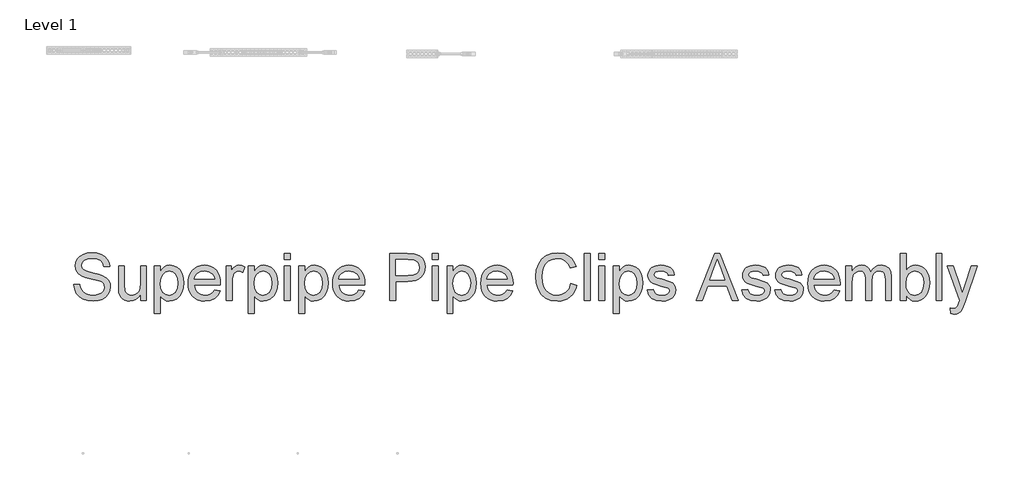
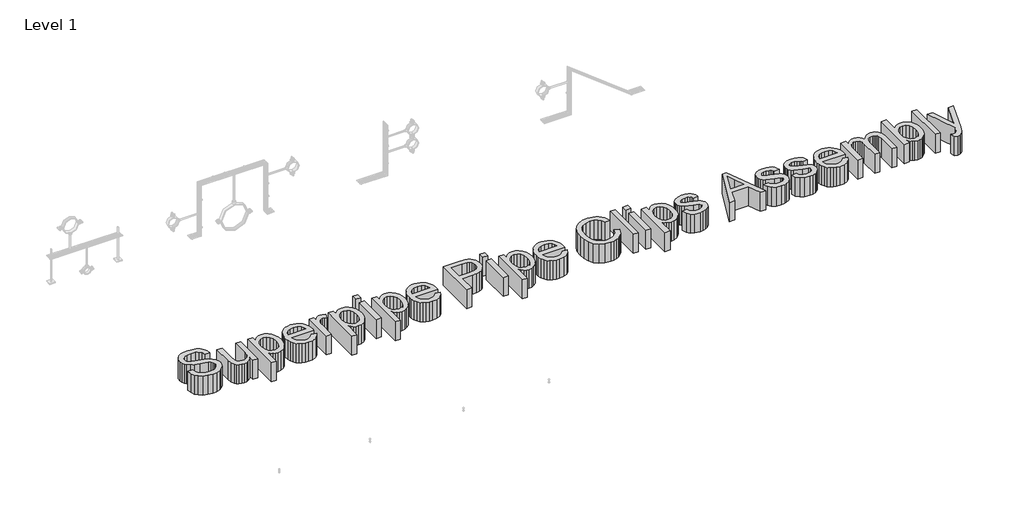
# One storey, part 27 of 32: 1 proxy.
"""IFC4 building model written with IfcOpenShell, lengths in millimetres."""

from ifc_helpers import new_model, si_unit, origin, origin_with_axes, place, context, project, spatial, polyline, outline, extrude, element, save

model = new_model("IFC4")

# Units and contexts
model_context = context("Model", 3, world=origin())
ifc_project = project(units=[si_unit("LENGTHUNIT", "METRE", prefix="MILLI")], contexts=[model_context])

# Site, building, storey
site = spatial("IfcSite", under=ifc_project)
building = spatial("IfcBuilding", under=site)
storey = spatial("IfcBuildingStorey", under=building, Name="Level 1", Elevation=0.0)

# Proxy
placement = place(None, origin())
element("IfcBuildingElementProxy", 1, Name="300mm Arial 2", ObjectType="300mm Arial 2", at=placement, inside=storey, context=model_context, shape_type="SweptSolid", body=[
    extrude(outline(polyline([(-22411.9190005, 19309.0330289), (-22374.2478842, 19309.0330289), (-22369.9252708, 19288.1281345), (-22362.1077784, 19271.3251244), (-22349.9124903, 19257.989402), (-22332.4564896, 19247.4863711), (-22311.1193339, 19240.6713571), (-22287.2805806, 19238.3996858), (-22266.2929128, 19240.1195341), (-22247.9172071, 19245.2790791), (-22233.0271833, 19253.4460594), (-22222.4965612, 19264.1882137), (-22216.2333703, 19276.5214575), (-22214.1456399, 19289.4617067), (-22215.7091384, 19302.0708621), (-22220.3996339, 19312.9693662), (-22229.9277775, 19322.2675836), (-22246.0042207, 19330.075879), (-22300.8554262, 19344.460065), (-22336.8618765, 19353.9790116), (-22359.9004864, 19363.0381058), (-22378.6532711, 19375.7116405), (-22391.9430082, 19391.0707138), (-22399.8616682, 19408.7842319), (-22402.5012215, 19428.5211009), (-22399.2362688, 19450.5848236), (-22389.4414106, 19471.1586241), (-22373.3741645, 19488.5962307), (-22351.2920477, 19501.2513714), (-22324.78615, 19508.9493021), (-22295.4475609, 19511.515279), (-22263.6625565, 19508.8297405), (-22235.8506777, 19500.7731248), (-22213.0052058, 19487.5109788), (-22196.1194222, 19469.2088496), (-22185.4324502, 19447.0071712), (-22181.1834132, 19422.0463778), (-22218.8545295, 19422.0463778), (-22225.770711, 19444.5239677), (-22240.1916852, 19460.7475637), (-22262.7244574, 19470.570013), (-22293.9760329, 19473.8441627), (-22325.9633724, 19470.6068012), (-22347.9075334, 19460.8947165), (-22360.5994622, 19446.602501), (-22364.8301052, 19429.6247469), (-22361.8318669, 19415.1485904), (-22352.8371521, 19403.5051252), (-22331.5735728, 19393.0940648), (-22291.3272825, 19382.4622751), (-22249.7934053, 19372.3639143), (-22224.667065, 19363.5531406), (-22203.1919535, 19349.8863244), (-22188.2099593, 19333.018935), (-22179.4083825, 19313.1349131), (-22176.4745236, 19290.4181999), (-22179.8498409, 19267.195649), (-22189.9757929, 19245.3526555), (-22206.4385121, 19226.5538856), (-22228.8241315, 19212.4640051), (-22255.7438965, 19203.6624284), (-22285.8090526, 19200.7285695), (-22322.7168138, 19203.8923547), (-22353.0946695, 19213.3837101), (-22377.2921077, 19229.2394241), (-22395.6586164, 19251.4962848), (-22407.4492343, 19278.6091879), (-22411.9190005, 19309.0330289)])), origin_with_axes(), (0.0, 0.0, 1.0), 150.0),
    extrude(outline(polyline([(-21983.4100526, 19205.437459), (-21983.4100526, 19243.4764573), (-21997.0400805, 19224.7742564), (-22012.9141886, 19211.4155415), (-22031.0323768, 19203.4003125), (-22051.3946453, 19200.7285695), (-22069.7427598, 19202.6047677), (-22086.8216814, 19208.2333622), (-22101.1506851, 19216.6946481), (-22111.2490459, 19227.0689203), (-22122.4694467, 19254.8072228), (-22124.6767387, 19289.8295887), (-22124.6767387, 19426.7552673), (-22087.0056224, 19426.7552673), (-22087.0056224, 19307.5615009), (-22084.724754, 19269.1546206), (-22079.2341153, 19256.3431301), (-22069.8255332, 19246.6034543), (-22057.1244073, 19240.4506279), (-22041.756137, 19238.3996858), (-22025.5049499, 19240.4966132), (-22010.3022264, 19246.7873953), (-21997.7666474, 19256.692618), (-21989.5168937, 19269.6328672), (-21984.9367628, 19287.3555823), (-21983.4100526, 19311.6082028), (-21983.4100526, 19426.7552673), (-21945.7389363, 19426.7552673), (-21945.7389363, 19205.437459), (-21983.4100526, 19205.437459)])), origin_with_axes(), (0.0, 0.0, 1.0), 150.0),
    extrude(outline(polyline([(-21893.9411513, 19120.6774473), (-21893.9411513, 19426.7552673), (-21856.270035, 19426.7552673), (-21856.270035, 19389.819915), (-21843.9827764, 19408.0392708), (-21830.2239898, 19421.0530964), (-21814.1843348, 19428.8613918), (-21795.054471, 19431.4641569), (-21769.5786429, 19427.8221251), (-21747.3033881, 19416.8960299), (-21729.1668057, 19399.3480587), (-21716.1069949, 19375.8403992), (-21708.2159261, 19348.0837027), (-21705.5855698, 19317.7886204), (-21708.5562169, 19285.5713546), (-21717.4681582, 19256.7569974), (-21732.0362853, 19232.8078795), (-21751.9754894, 19215.1863319), (-21775.1980403, 19204.3430101), (-21799.6162078, 19200.7285695), (-21816.9342527, 19203.1473936), (-21832.3944935, 19210.403866), (-21845.6290483, 19221.3575524), (-21856.270035, 19234.8680186), (-21856.270035, 19120.6774473), (-21893.9411513, 19120.6774473)]), holes=[polyline([(-21856.270035, 19314.3305296), (-21852.1957419, 19280.5589624), (-21839.9728626, 19256.9409384), (-21821.9374478, 19243.0349989), (-21800.4255482, 19238.3996858), (-21778.5641606, 19243.2005458), (-21760.0688933, 19257.6031259), (-21747.4597379, 19282.0856727), (-21743.2566861, 19317.1264328), (-21747.3585704, 19350.7140589), (-21759.6642231, 19374.6631768), (-21777.6720468, 19389.0105746), (-21798.8804438, 19393.7930406), (-21820.1716143, 19388.707072), (-21838.8692167, 19373.4491662), (-21851.9198304, 19348.4975699), (-21856.270035, 19314.3305296)])]), origin_with_axes(), (0.0, 0.0, 1.0), 150.0),
    extrude(outline(polyline([(-21508.2536676, 19271.3619126), (-21471.3183153, 19266.653023), (-21484.6264465, 19238.8227501), (-21505.8624346, 19218.0190233), (-21534.5480332, 19205.0511829), (-21570.2049956, 19200.7285695), (-21593.5792978, 19202.5932714), (-21614.4060173, 19208.1873769), (-21632.6851539, 19217.5108863), (-21648.4167078, 19230.5637993), (-21661.0672499, 19246.9828326), (-21670.1033514, 19266.4047027), (-21675.5250123, 19288.8294095), (-21677.3322326, 19314.2569532), (-21675.5066182, 19340.5467203), (-21670.029775, 19363.7186875), (-21660.901703, 19383.7728547), (-21648.1224022, 19400.7092221), (-21632.4322351, 19414.164506), (-21614.5715642, 19423.7754232), (-21594.5403896, 19429.5419734), (-21572.3387112, 19431.4641569), (-21550.8521034, 19429.546572), (-21531.4210362, 19423.7938173), (-21514.0455098, 19414.2058928), (-21498.7255239, 19400.7827985), (-21486.2198353, 19383.8832193), (-21477.2872006, 19363.8658403), (-21471.9276198, 19340.7306613), (-21470.1410929, 19314.4776824), (-21470.3618221, 19304.3241393), (-21639.6611163, 19304.3241393), (-21633.1404079, 19276.1259844), (-21617.9928668, 19255.395834), (-21596.1314792, 19242.6487228), (-21569.4692316, 19238.3996858), (-21549.4196629, 19240.3678545), (-21532.5338793, 19246.2723605), (-21518.8118809, 19256.4810859), (-21508.2536676, 19271.3619126)]), holes=[polyline([(-21639.6611163, 19341.9952556), (-21507.8122092, 19341.9952556), (-21512.9073748, 19361.8976716), (-21522.895371, 19376.1347048), (-21544.8579261, 19389.3784566), (-21572.4858639, 19393.7930406), (-21597.8789187, 19390.2705705), (-21618.8757835, 19379.7031601), (-21633.4715017, 19363.2312438), (-21639.6611163, 19341.9952556)])]), origin_with_axes(), (0.0, 0.0, 1.0), 150.0),
    extrude(outline(polyline([(-21432.4699766, 19205.437459), (-21432.4699766, 19426.7552673), (-21399.5077498, 19426.7552673), (-21399.5077498, 19394.0137698), (-21387.3308558, 19412.9964807), (-21376.1104549, 19424.1800934), (-21364.8532659, 19429.643141), (-21352.5660072, 19431.4641569), (-21333.8040255, 19428.5578891), (-21314.7477381, 19419.8390858), (-21327.3293024, 19386.0675187), (-21340.5730542, 19391.8616601), (-21353.816806, 19393.7930406), (-21365.064798, 19391.9352365), (-21375.1171735, 19386.3618243), (-21383.2381686, 19377.4958682), (-21388.6920192, 19365.7604325), (-21393.27215, 19344.7175824), (-21394.7988603, 19321.7617459), (-21394.7988603, 19205.437459), (-21432.4699766, 19205.437459)])), origin_with_axes(), (0.0, 0.0, 1.0), 150.0),
    extrude(outline(polyline([(-21291.2032904, 19120.6774473), (-21291.2032904, 19426.7552673), (-21253.5321741, 19426.7552673), (-21253.5321741, 19389.819915), (-21241.2449155, 19408.0392708), (-21227.4861289, 19421.0530964), (-21211.4464739, 19428.8613918), (-21192.3166101, 19431.4641569), (-21166.840782, 19427.8221251), (-21144.5655272, 19416.8960299), (-21126.4289448, 19399.3480587), (-21113.369134, 19375.8403992), (-21105.4780652, 19348.0837027), (-21102.8477089, 19317.7886204), (-21105.818356, 19285.5713546), (-21114.7302974, 19256.7569974), (-21129.2984244, 19232.8078795), (-21149.2376285, 19215.1863319), (-21172.4601794, 19204.3430101), (-21196.8783469, 19200.7285695), (-21214.1963918, 19203.1473936), (-21229.6566326, 19210.403866), (-21242.8911874, 19221.3575524), (-21253.5321741, 19234.8680186), (-21253.5321741, 19120.6774473), (-21291.2032904, 19120.6774473)]), holes=[polyline([(-21253.5321741, 19314.3305296), (-21249.457881, 19280.5589624), (-21237.2350017, 19256.9409384), (-21219.1995869, 19243.0349989), (-21197.6876873, 19238.3996858), (-21175.8262997, 19243.2005458), (-21157.3310324, 19257.6031259), (-21144.721877, 19282.0856727), (-21140.5188252, 19317.1264328), (-21144.6207095, 19350.7140589), (-21156.9263622, 19374.6631768), (-21174.9341859, 19389.0105746), (-21196.1425829, 19393.7930406), (-21217.4337534, 19388.707072), (-21236.1313558, 19373.4491662), (-21249.1819695, 19348.4975699), (-21253.5321741, 19314.3305296)])]), origin_with_axes(), (0.0, 0.0, 1.0), 150.0),
    extrude(outline(polyline([(-21060.4677031, 19205.437459), (-21060.4677031, 19426.7552673), (-21022.7965868, 19426.7552673), (-21022.7965868, 19205.437459), (-21060.4677031, 19205.437459)])), origin_with_axes(), (0.0, 0.0, 1.0), 150.0),
    extrude(outline(polyline([(-21060.4677031, 19469.1352732), (-21060.4677031, 19506.8063895), (-21022.7965868, 19506.8063895), (-21022.7965868, 19469.1352732), (-21060.4677031, 19469.1352732)])), origin_with_axes(), (0.0, 0.0, 1.0), 150.0),
    extrude(outline(polyline([(-20966.2899123, 19120.6774473), (-20966.2899123, 19426.7552673), (-20928.618796, 19426.7552673), (-20928.618796, 19389.819915), (-20916.3315374, 19408.0392708), (-20902.5727507, 19421.0530964), (-20886.5330957, 19428.8613918), (-20867.403232, 19431.4641569), (-20841.9274038, 19427.8221251), (-20819.652149, 19416.8960299), (-20801.5155667, 19399.3480587), (-20788.4557558, 19375.8403992), (-20780.564687, 19348.0837027), (-20777.9343308, 19317.7886204), (-20780.9049779, 19285.5713546), (-20789.8169192, 19256.7569974), (-20804.3850462, 19232.8078795), (-20824.3242504, 19215.1863319), (-20847.5468013, 19204.3430101), (-20871.9649687, 19200.7285695), (-20889.2830137, 19203.1473936), (-20904.7432545, 19210.403866), (-20917.9778093, 19221.3575524), (-20928.618796, 19234.8680186), (-20928.618796, 19120.6774473), (-20966.2899123, 19120.6774473)]), holes=[polyline([(-20928.618796, 19314.3305296), (-20924.5445029, 19280.5589624), (-20912.3216236, 19256.9409384), (-20894.2862088, 19243.0349989), (-20872.7743091, 19238.3996858), (-20850.9129216, 19243.2005458), (-20832.4176543, 19257.6031259), (-20819.8084989, 19282.0856727), (-20815.6054471, 19317.1264328), (-20819.7073313, 19350.7140589), (-20832.0129841, 19374.6631768), (-20850.0208077, 19389.0105746), (-20871.2292047, 19393.7930406), (-20892.5203752, 19388.707072), (-20911.2179776, 19373.4491662), (-20924.2685914, 19348.4975699), (-20928.618796, 19314.3305296)])]), origin_with_axes(), (0.0, 0.0, 1.0), 150.0),
    extrude(outline(polyline([(-20580.6024286, 19271.3619126), (-20543.6670762, 19266.653023), (-20556.9752074, 19238.8227501), (-20578.2111956, 19218.0190233), (-20606.8967942, 19205.0511829), (-20642.5537565, 19200.7285695), (-20665.9280588, 19202.5932714), (-20686.7547783, 19208.1873769), (-20705.0339149, 19217.5108863), (-20720.7654687, 19230.5637993), (-20733.4160108, 19246.9828326), (-20742.4521123, 19266.4047027), (-20747.8737732, 19288.8294095), (-20749.6809935, 19314.2569532), (-20747.8553791, 19340.5467203), (-20742.3785359, 19363.7186875), (-20733.2504639, 19383.7728547), (-20720.4711631, 19400.7092221), (-20704.780996, 19414.164506), (-20686.9203252, 19423.7754232), (-20666.8891505, 19429.5419734), (-20644.6874721, 19431.4641569), (-20623.2008643, 19429.546572), (-20603.7697972, 19423.7938173), (-20586.3942707, 19414.2058928), (-20571.0742849, 19400.7827985), (-20558.5685963, 19383.8832193), (-20549.6359616, 19363.8658403), (-20544.2763808, 19340.7306613), (-20542.4898539, 19314.4776824), (-20542.7105831, 19304.3241393), (-20712.0098772, 19304.3241393), (-20705.4891689, 19276.1259844), (-20690.3416277, 19255.395834), (-20668.4802402, 19242.6487228), (-20641.8179926, 19238.3996858), (-20621.7684238, 19240.3678545), (-20604.8826402, 19246.2723605), (-20591.1606418, 19256.4810859), (-20580.6024286, 19271.3619126)]), holes=[polyline([(-20712.0098772, 19341.9952556), (-20580.1609702, 19341.9952556), (-20585.2561358, 19361.8976716), (-20595.244132, 19376.1347048), (-20617.2066871, 19389.3784566), (-20644.8346249, 19393.7930406), (-20670.2276796, 19390.2705705), (-20691.2245445, 19379.7031601), (-20705.8202627, 19363.2312438), (-20712.0098772, 19341.9952556)])]), origin_with_axes(), (0.0, 0.0, 1.0), 150.0),
    extrude(outline(polyline([(-20382.3876096, 19205.437459), (-20382.3876096, 19506.8063895), (-20270.6986358, 19506.8063895), (-20225.6698796, 19503.9369099), (-20205.5927197, 19498.5750298), (-20189.0656211, 19489.8470295), (-20175.7574899, 19477.3574358), (-20165.3372324, 19460.7107755), (-20158.6049919, 19441.075074), (-20156.3609117, 19419.6183566), (-20157.8761257, 19401.1184908), (-20162.4217676, 19384.09935), (-20169.9978374, 19368.5609342), (-20180.6043352, 19354.5032435), (-20195.1655644, 19342.8505813), (-20214.6058286, 19334.5272511), (-20238.9251277, 19329.5332531), (-20268.1234619, 19327.868587), (-20344.7164932, 19327.868587), (-20344.7164932, 19205.437459), (-20382.3876096, 19205.437459)]), holes=[polyline([(-20344.7164932, 19365.5397033), (-20265.9161699, 19365.5397033), (-20232.5124847, 19368.9977941), (-20210.439565, 19379.3720663), (-20198.1339123, 19396.0187266), (-20194.032028, 19418.2939814), (-20196.4508521, 19435.2165532), (-20203.7073245, 19449.4903746), (-20214.9001342, 19460.2325289), (-20229.1279704, 19466.5600992), (-20266.7990867, 19469.1352732), (-20344.7164932, 19469.1352732), (-20344.7164932, 19365.5397033)])]), origin_with_axes(), (0.0, 0.0, 1.0), 150.0),
    extrude(outline(polyline([(-20109.2720163, 19205.437459), (-20109.2720163, 19426.7552673), (-20071.6009, 19426.7552673), (-20071.6009, 19205.437459), (-20109.2720163, 19205.437459)])), origin_with_axes(), (0.0, 0.0, 1.0), 150.0),
    extrude(outline(polyline([(-20109.2720163, 19469.1352732), (-20109.2720163, 19506.8063895), (-20071.6009, 19506.8063895), (-20071.6009, 19469.1352732), (-20109.2720163, 19469.1352732)])), origin_with_axes(), (0.0, 0.0, 1.0), 150.0),
    extrude(outline(polyline([(-20015.0942256, 19120.6774473), (-20015.0942256, 19426.7552673), (-19977.4231093, 19426.7552673), (-19977.4231093, 19389.819915), (-19965.1358506, 19408.0392708), (-19951.377064, 19421.0530964), (-19935.337409, 19428.8613918), (-19916.2075453, 19431.4641569), (-19890.7317171, 19427.8221251), (-19868.4564623, 19416.8960299), (-19850.3198799, 19399.3480587), (-19837.2600691, 19375.8403992), (-19829.3690003, 19348.0837027), (-19826.738644, 19317.7886204), (-19829.7092911, 19285.5713546), (-19838.6212325, 19256.7569974), (-19853.1893595, 19232.8078795), (-19873.1285636, 19215.1863319), (-19896.3511146, 19204.3430101), (-19920.769282, 19200.7285695), (-19938.0873269, 19203.1473936), (-19953.5475678, 19210.403866), (-19966.7821226, 19221.3575524), (-19977.4231093, 19234.8680186), (-19977.4231093, 19120.6774473), (-20015.0942256, 19120.6774473)]), holes=[polyline([(-19977.4231093, 19314.3305296), (-19973.3488162, 19280.5589624), (-19961.1259369, 19256.9409384), (-19943.0905221, 19243.0349989), (-19921.5786224, 19238.3996858), (-19899.7172348, 19243.2005458), (-19881.2219675, 19257.6031259), (-19868.6128121, 19282.0856727), (-19864.4097603, 19317.1264328), (-19868.5116446, 19350.7140589), (-19880.8172973, 19374.6631768), (-19898.825121, 19389.0105746), (-19920.033518, 19393.7930406), (-19941.3246885, 19388.707072), (-19960.0222909, 19373.4491662), (-19973.0729047, 19348.4975699), (-19977.4231093, 19314.3305296)])]), origin_with_axes(), (0.0, 0.0, 1.0), 150.0),
    extrude(outline(polyline([(-19629.4067418, 19271.3619126), (-19592.4713895, 19266.653023), (-19605.7795207, 19238.8227501), (-19627.0155089, 19218.0190233), (-19655.7011074, 19205.0511829), (-19691.3580698, 19200.7285695), (-19714.7323721, 19202.5932714), (-19735.5590915, 19208.1873769), (-19753.8382282, 19217.5108863), (-19769.569782, 19230.5637993), (-19782.2203241, 19246.9828326), (-19791.2564256, 19266.4047027), (-19796.6780865, 19288.8294095), (-19798.4853068, 19314.2569532), (-19796.6596924, 19340.5467203), (-19791.1828492, 19363.7186875), (-19782.0547772, 19383.7728547), (-19769.2754764, 19400.7092221), (-19753.5853093, 19414.164506), (-19735.7246384, 19423.7754232), (-19715.6934638, 19429.5419734), (-19693.4917854, 19431.4641569), (-19672.0051776, 19429.546572), (-19652.5741105, 19423.7938173), (-19635.198584, 19414.2058928), (-19619.8785981, 19400.7827985), (-19607.3729096, 19383.8832193), (-19598.4402749, 19363.8658403), (-19593.0806941, 19340.7306613), (-19591.2941671, 19314.4776824), (-19591.5148963, 19304.3241393), (-19760.8141905, 19304.3241393), (-19754.2934821, 19276.1259844), (-19739.145941, 19255.395834), (-19717.2845534, 19242.6487228), (-19690.6223058, 19238.3996858), (-19670.5727371, 19240.3678545), (-19653.6869535, 19246.2723605), (-19639.9649551, 19256.4810859), (-19629.4067418, 19271.3619126)]), holes=[polyline([(-19760.8141905, 19341.9952556), (-19628.9652834, 19341.9952556), (-19634.0604491, 19361.8976716), (-19644.0484452, 19376.1347048), (-19666.0110003, 19389.3784566), (-19693.6389382, 19393.7930406), (-19719.0319929, 19390.2705705), (-19740.0288578, 19379.7031601), (-19754.6245759, 19363.2312438), (-19760.8141905, 19341.9952556)])]), origin_with_axes(), (0.0, 0.0, 1.0), 150.0),
    extrude(outline(polyline([(-19219.2918936, 19312.564696), (-19181.6207773, 19302.8526114), (-19189.0749862, 19279.425426), (-19199.0032016, 19258.9550923), (-19211.4054233, 19241.44161), (-19226.2816515, 19226.8849793), (-19243.2961938, 19215.44155), (-19262.1133578, 19207.267672), (-19282.7331437, 19202.3633451), (-19305.1555513, 19200.7285695), (-19348.8507353, 19205.6765823), (-19383.5512044, 19220.5206208), (-19410.1490727, 19244.7456502), (-19429.5364538, 19277.8366357), (-19441.373057, 19316.7401567), (-19445.3185914, 19358.4027926), (-19440.8580222, 19402.3462969), (-19427.4763147, 19440.2933248), (-19405.8724445, 19471.0390625), (-19376.7453875, 19493.3786967), (-19342.2012682, 19506.9811334), (-19304.3462109, 19511.515279), (-19263.0422599, 19505.6475612), (-19245.0735237, 19498.3129139), (-19228.8936137, 19488.0444077), (-19214.7692443, 19475.1133556), (-19202.9671301, 19459.7910705), (-19186.3296668, 19421.9728014), (-19224.0007831, 19412.9964807), (-19237.060594, 19440.4680687), (-19254.9028707, 19459.3128239), (-19277.7483426, 19470.211328), (-19305.8177389, 19473.8441627), (-19338.1729603, 19469.8158549), (-19364.7524345, 19457.7309313), (-19384.9215649, 19438.858585), (-19398.0457551, 19414.4680087), (-19405.2470451, 19386.8952532), (-19407.6474751, 19358.476369), (-19404.8055867, 19323.6747323), (-19396.2799215, 19293.5819851), (-19381.7485827, 19269.3477586), (-19360.8896735, 19252.1216842), (-19335.8828949, 19241.8301854), (-19308.9079476, 19238.3996858), (-19277.4632341, 19243.0717871), (-19251.260839, 19257.0880912), (-19231.4779847, 19280.301445), (-19219.2918936, 19312.564696)])), origin_with_axes(), (0.0, 0.0, 1.0), 150.0),
    extrude(outline(polyline([(-19134.5318819, 19205.437459), (-19134.5318819, 19506.8063895), (-19096.8607656, 19506.8063895), (-19096.8607656, 19205.437459), (-19134.5318819, 19205.437459)])), origin_with_axes(), (0.0, 0.0, 1.0), 150.0),
    extrude(outline(polyline([(-19040.3540911, 19469.1352732), (-19040.3540911, 19506.8063895), (-19002.6829748, 19506.8063895), (-19002.6829748, 19469.1352732), (-19040.3540911, 19469.1352732)])), origin_with_axes(), (0.0, 0.0, 1.0), 150.0),
    extrude(outline(polyline([(-19040.3540911, 19205.437459), (-19040.3540911, 19426.7552673), (-19002.6829748, 19426.7552673), (-19002.6829748, 19205.437459), (-19040.3540911, 19205.437459)])), origin_with_axes(), (0.0, 0.0, 1.0), 150.0),
    extrude(outline(polyline([(-18946.1763004, 19120.6774473), (-18946.1763004, 19426.7552673), (-18908.5051841, 19426.7552673), (-18908.5051841, 19389.819915), (-18896.2179254, 19408.0392708), (-18882.4591388, 19421.0530964), (-18866.4194838, 19428.8613918), (-18847.2896201, 19431.4641569), (-18821.8137919, 19427.8221251), (-18799.5385371, 19416.8960299), (-18781.4019547, 19399.3480587), (-18768.3421439, 19375.8403992), (-18760.4510751, 19348.0837027), (-18757.8207189, 19317.7886204), (-18760.791366, 19285.5713546), (-18769.7033073, 19256.7569974), (-18784.2714343, 19232.8078795), (-18804.2106384, 19215.1863319), (-18827.4331894, 19204.3430101), (-18851.8513568, 19200.7285695), (-18869.1694017, 19203.1473936), (-18884.6296426, 19210.403866), (-18897.8641974, 19221.3575524), (-18908.5051841, 19234.8680186), (-18908.5051841, 19120.6774473), (-18946.1763004, 19120.6774473)]), holes=[polyline([(-18908.5051841, 19314.3305296), (-18904.430891, 19280.5589624), (-18892.2080117, 19256.9409384), (-18874.1725969, 19243.0349989), (-18852.6606972, 19238.3996858), (-18830.7993096, 19243.2005458), (-18812.3040423, 19257.6031259), (-18799.694887, 19282.0856727), (-18795.4918352, 19317.1264328), (-18799.5937194, 19350.7140589), (-18811.8993721, 19374.6631768), (-18829.9071958, 19389.0105746), (-18851.1155928, 19393.7930406), (-18872.4067633, 19388.707072), (-18891.1043657, 19373.4491662), (-18904.1549795, 19348.4975699), (-18908.5051841, 19314.3305296)])]), origin_with_axes(), (0.0, 0.0, 1.0), 150.0),
    extrude(outline(polyline([(-18729.5673816, 19271.3619126), (-18691.8962653, 19276.0708021), (-18685.9549711, 19259.9575707), (-18674.4586587, 19248.1117705), (-18657.3337519, 19240.827707), (-18634.5066741, 19238.3996858), (-18611.9555078, 19240.6253719), (-18596.0997938, 19247.3024301), (-18586.7188029, 19256.9777266), (-18583.5918059, 19268.1981274), (-18586.737197, 19277.7998475), (-18596.1733702, 19285.1206992), (-18634.9481325, 19295.8628534), (-18691.6755361, 19314.2937414), (-18706.032131, 19323.5551706), (-18716.4339944, 19335.8148381), (-18722.7523677, 19350.2909946), (-18724.8584921, 19366.2018909), (-18723.1662349, 19380.7976091), (-18718.0894634, 19394.2712872), (-18710.08803, 19406.0894962), (-18699.6217872, 19415.7188075), (-18675.6726693, 19426.8656319), (-18643.2622656, 19431.4641569), (-18618.7429306, 19429.6155498), (-18597.424169, 19424.0697288), (-18580.280868, 19415.3693196), (-18568.2879149, 19404.0569482), (-18560.3416638, 19389.2956832), (-18555.3384687, 19370.2485929), (-18593.009585, 19365.5397033), (-18597.7644598, 19377.3947006), (-18607.1730418, 19386.3250361), (-18621.3273016, 19391.9260394), (-18640.3192096, 19393.7930406), (-18661.9506709, 19392.0088129), (-18676.3716451, 19386.6561299), (-18684.4834431, 19378.930608), (-18687.1873758, 19370.0278637), (-18682.6992154, 19359.0649802), (-18668.6461232, 19350.7508471), (-18636.1989312, 19342.7310196), (-18580.9062674, 19324.9991075), (-18566.3013522, 19316.5194275), (-18555.2281041, 19304.9127505), (-18548.2475432, 19290.1422884), (-18545.9206896, 19272.171253), (-18548.6522134, 19253.5932122), (-18556.8467849, 19236.1188174), (-18570.1917043, 19221.1184291), (-18588.3742719, 19209.9624076), (-18610.336827, 19203.037029), (-18635.0217089, 19200.7285695), (-18673.0055249, 19205.1799416), (-18700.7254332, 19218.5340581), (-18719.2298976, 19240.643766), (-18729.5673816, 19271.3619126)])), origin_with_axes(), (0.0, 0.0, 1.0), 150.0),
    extrude(outline(polyline([(-18416.2054981, 19205.437459), (-18295.9080857, 19506.8063895), (-18263.8287757, 19506.8063895), (-18143.5313633, 19205.437459), (-18183.3361952, 19205.437459), (-18217.8435263, 19299.6152498), (-18341.9669115, 19299.6152498), (-18376.4006663, 19205.437459), (-18416.2054981, 19205.437459)]), holes=[polyline([(-18328.1345485, 19337.2863661), (-18231.602313, 19337.2863661), (-18258.7520042, 19411.3777999), (-18279.8684307, 19469.1352732), (-18298.6304125, 19417.852523), (-18328.1345485, 19337.2863661)])]), origin_with_axes(), (0.0, 0.0, 1.0), 150.0),
    extrude(outline(polyline([(-18122.1206312, 19271.3619126), (-18084.4495149, 19276.0708021), (-18078.5082207, 19259.9575707), (-18067.0119083, 19248.1117705), (-18049.8870014, 19240.827707), (-18027.0599236, 19238.3996858), (-18004.5087573, 19240.6253719), (-17988.6530433, 19247.3024301), (-17979.2720525, 19256.9777266), (-17976.1450555, 19268.1981274), (-17979.2904466, 19277.7998475), (-17988.7266197, 19285.1206992), (-18027.501382, 19295.8628534), (-18084.2287857, 19314.2937414), (-18098.5853805, 19323.5551706), (-18108.987244, 19335.8148381), (-18115.3056172, 19350.2909946), (-18117.4117416, 19366.2018909), (-18115.7194845, 19380.7976091), (-18110.6427129, 19394.2712872), (-18102.6412795, 19406.0894962), (-18092.1750368, 19415.7188075), (-18068.2259189, 19426.8656319), (-18035.8155151, 19431.4641569), (-18011.2961801, 19429.6155498), (-17989.9774185, 19424.0697288), (-17972.8341175, 19415.3693196), (-17960.8411645, 19404.0569482), (-17952.8949134, 19389.2956832), (-17947.8917183, 19370.2485929), (-17985.5628346, 19365.5397033), (-17990.3177094, 19377.3947006), (-17999.7262914, 19386.3250361), (-18013.8805512, 19391.9260394), (-18032.8724592, 19393.7930406), (-18054.5039205, 19392.0088129), (-18068.9248947, 19386.6561299), (-18077.0366927, 19378.930608), (-18079.7406253, 19370.0278637), (-18075.252465, 19359.0649802), (-18061.1993728, 19350.7508471), (-18028.7521808, 19342.7310196), (-17973.4595169, 19324.9991075), (-17958.8546017, 19316.5194275), (-17947.7813537, 19304.9127505), (-17940.8007928, 19290.1422884), (-17938.4739392, 19272.171253), (-17941.205463, 19253.5932122), (-17949.4000345, 19236.1188174), (-17962.7449538, 19221.1184291), (-17980.9275214, 19209.9624076), (-18002.8900765, 19203.037029), (-18027.5749584, 19200.7285695), (-18065.5587744, 19205.1799416), (-18093.2786828, 19218.5340581), (-18111.7831471, 19240.643766), (-18122.1206312, 19271.3619126)])), origin_with_axes(), (0.0, 0.0, 1.0), 150.0),
    extrude(outline(polyline([(-17910.220602, 19271.3619126), (-17872.5494857, 19276.0708021), (-17866.6081914, 19259.9575707), (-17855.1118791, 19248.1117705), (-17837.9869722, 19240.827707), (-17815.1598944, 19238.3996858), (-17792.6087281, 19240.6253719), (-17776.7530141, 19247.3024301), (-17767.3720232, 19256.9777266), (-17764.2450263, 19268.1981274), (-17767.3904173, 19277.7998475), (-17776.8265905, 19285.1206992), (-17815.6013528, 19295.8628534), (-17872.3287565, 19314.2937414), (-17886.6853513, 19323.5551706), (-17897.0872147, 19335.8148381), (-17903.405588, 19350.2909946), (-17905.5117124, 19366.2018909), (-17903.8194552, 19380.7976091), (-17898.7426837, 19394.2712872), (-17890.7412503, 19406.0894962), (-17880.2750076, 19415.7188075), (-17856.3258897, 19426.8656319), (-17823.9154859, 19431.4641569), (-17799.3961509, 19429.6155498), (-17778.0773893, 19424.0697288), (-17760.9340883, 19415.3693196), (-17748.9411353, 19404.0569482), (-17740.9948842, 19389.2956832), (-17735.991689, 19370.2485929), (-17773.6628054, 19365.5397033), (-17778.4176801, 19377.3947006), (-17787.8262622, 19386.3250361), (-17801.9805219, 19391.9260394), (-17820.9724299, 19393.7930406), (-17842.6038913, 19392.0088129), (-17857.0248655, 19386.6561299), (-17865.1366635, 19378.930608), (-17867.8405961, 19370.0278637), (-17863.3524358, 19359.0649802), (-17849.2993436, 19350.7508471), (-17816.8521516, 19342.7310196), (-17761.5594877, 19324.9991075), (-17746.9545725, 19316.5194275), (-17735.8813245, 19304.9127505), (-17728.9007636, 19290.1422884), (-17726.57391, 19272.171253), (-17729.3054338, 19253.5932122), (-17737.5000052, 19236.1188174), (-17750.8449246, 19221.1184291), (-17769.0274922, 19209.9624076), (-17790.9900473, 19203.037029), (-17815.6749292, 19200.7285695), (-17853.6587452, 19205.1799416), (-17881.3786535, 19218.5340581), (-17899.8831179, 19240.643766), (-17910.220602, 19271.3619126)])), origin_with_axes(), (0.0, 0.0, 1.0), 150.0),
    extrude(outline(polyline([(-17529.2420078, 19271.3619126), (-17492.3066554, 19266.653023), (-17505.6147866, 19238.8227501), (-17526.8507748, 19218.0190233), (-17555.5363734, 19205.0511829), (-17591.1933357, 19200.7285695), (-17614.567638, 19202.5932714), (-17635.3943575, 19208.1873769), (-17653.6734941, 19217.5108863), (-17669.4050479, 19230.5637993), (-17682.05559, 19246.9828326), (-17691.0916915, 19266.4047027), (-17696.5133524, 19288.8294095), (-17698.3205727, 19314.2569532), (-17696.4949583, 19340.5467203), (-17691.0181151, 19363.7186875), (-17681.8900431, 19383.7728547), (-17669.1107423, 19400.7092221), (-17653.4205752, 19414.164506), (-17635.5599044, 19423.7754232), (-17615.5287297, 19429.5419734), (-17593.3270513, 19431.4641569), (-17571.8404435, 19429.546572), (-17552.4093764, 19423.7938173), (-17535.0338499, 19414.2058928), (-17519.7138641, 19400.7827985), (-17507.2081755, 19383.8832193), (-17498.2755408, 19363.8658403), (-17492.91596, 19340.7306613), (-17491.1294331, 19314.4776824), (-17491.3501623, 19304.3241393), (-17660.6494564, 19304.3241393), (-17654.1287481, 19276.1259844), (-17638.9812069, 19255.395834), (-17617.1198194, 19242.6487228), (-17590.4575718, 19238.3996858), (-17570.408003, 19240.3678545), (-17553.5222194, 19246.2723605), (-17539.800221, 19256.4810859), (-17529.2420078, 19271.3619126)]), holes=[polyline([(-17660.6494564, 19341.9952556), (-17528.8005494, 19341.9952556), (-17533.895715, 19361.8976716), (-17543.8837112, 19376.1347048), (-17565.8462663, 19389.3784566), (-17593.4742041, 19393.7930406), (-17618.8672588, 19390.2705705), (-17639.8641237, 19379.7031601), (-17654.4598419, 19363.2312438), (-17660.6494564, 19341.9952556)])]), origin_with_axes(), (0.0, 0.0, 1.0), 150.0),
    extrude(outline(polyline([(-17453.4583168, 19205.437459), (-17453.4583168, 19426.7552673), (-17415.7872004, 19426.7552673), (-17415.7872004, 19390.3349498), (-17404.456435, 19407.0643835), (-17389.888308, 19420.1701796), (-17372.5794601, 19428.6406626), (-17353.0265321, 19431.4641569), (-17332.0756524, 19428.5854803), (-17315.2818394, 19419.9494504), (-17302.7370633, 19406.1262844), (-17294.5332948, 19387.6861994), (-17280.8020994, 19406.8390558), (-17265.1395234, 19420.5196675), (-17247.545567, 19428.7280345), (-17228.0202301, 19431.4641569), (-17199.7025135, 19426.9116172), (-17178.760831, 19413.2539981), (-17165.8205818, 19390.1234177), (-17161.5071654, 19357.1519938), (-17161.5071654, 19205.437459), (-17199.1782817, 19205.437459), (-17199.1782817, 19340.9651861), (-17202.6731606, 19372.4190966), (-17207.5843853, 19381.0919147), (-17215.3283013, 19387.9069286), (-17225.2887063, 19392.3215126), (-17236.849398, 19393.7930406), (-17257.2576517, 19390.0222501), (-17273.8951149, 19378.7098788), (-17284.9591659, 19359.0833743), (-17288.6471829, 19330.3701846), (-17288.6471829, 19205.437459), (-17326.3182992, 19205.437459), (-17326.3182992, 19345.1590408), (-17328.498, 19366.4594083), (-17335.0371025, 19381.6529347), (-17346.5426119, 19390.7580141), (-17363.6215335, 19393.7930406), (-17378.1344782, 19391.7696896), (-17391.5069888, 19385.6996367), (-17402.5434486, 19375.7300346), (-17410.0482413, 19362.0080362), (-17414.3524607, 19342.9701429), (-17415.7872004, 19317.0528564), (-17415.7872004, 19205.437459), (-17453.4583168, 19205.437459)])), origin_with_axes(), (0.0, 0.0, 1.0), 150.0),
    extrude(outline(polyline([(-17067.3293746, 19205.437459), (-17105.0004909, 19205.437459), (-17105.0004909, 19506.8063895), (-17067.3293746, 19506.8063895), (-17067.3293746, 19395.0438393), (-17054.9409484, 19410.9777283), (-17040.9522356, 19422.3590775), (-17025.363236, 19429.187887), (-17008.1739498, 19431.4641569), (-16988.7681745, 19429.4132147), (-16970.4292571, 19423.2603884), (-16954.2056611, 19413.3919539), (-16941.1458503, 19400.1941873), (-16930.9095338, 19383.7958473), (-16923.1564207, 19364.3256927), (-16918.2727872, 19342.5930639), (-16916.6449094, 19319.4073011), (-16918.3302688, 19292.653083), (-16923.386347, 19269.1178324), (-16931.8131439, 19248.8015492), (-16943.6106596, 19231.7042335), (-16957.7718172, 19218.1523805), (-16973.2895396, 19208.4724855), (-16990.1638269, 19202.6645485), (-17008.394679, 19200.7285695), (-17026.1495838, 19203.2255685), (-17041.8903346, 19210.7165657), (-17055.6169316, 19223.2015609), (-17067.3293746, 19240.6805542), (-17067.3293746, 19205.437459)]), holes=[polyline([(-17067.3293746, 19317.6414676), (-17064.7542006, 19286.2243452), (-17057.0286788, 19264.9607658), (-17047.9006067, 19253.3402933), (-17037.2918097, 19245.0399558), (-17025.2022876, 19240.0597533), (-17011.6320405, 19238.3996858), (-16989.8902146, 19243.2925163), (-16971.3121739, 19257.9710079), (-16958.5650627, 19282.3431901), (-16954.3160257, 19316.3170924), (-16958.3903188, 19350.7876353), (-16970.6131981, 19374.883906), (-16988.6118247, 19389.0657569), (-17010.0133598, 19393.7930406), (-17031.7551857, 19388.90021), (-17050.3332264, 19374.2217184), (-17063.0803376, 19350.2909946), (-17067.3293746, 19317.6414676)])]), origin_with_axes(), (0.0, 0.0, 1.0), 150.0),
    extrude(outline(polyline([(-16874.2649035, 19205.437459), (-16874.2649035, 19506.8063895), (-16836.5937872, 19506.8063895), (-16836.5937872, 19205.437459), (-16874.2649035, 19205.437459)])), origin_with_axes(), (0.0, 0.0, 1.0), 150.0),
    extrude(outline(polyline([(-16780.0871128, 19120.6774473), (-16784.7960023, 19156.9506121), (-16765.6661386, 19153.6396741), (-16747.7870736, 19157.7967407), (-16736.8241901, 19169.3850235), (-16726.5234943, 19197.1233259), (-16723.5804383, 19206.2467994), (-16803.6315605, 19426.7552673), (-16763.900305, 19426.7552673), (-16721.4467228, 19303.8826809), (-16706.6578665, 19254.7336464), (-16691.8690103, 19298.1437218), (-16648.2382057, 19426.7552673), (-16608.8012558, 19426.7552673), (-16685.8357456, 19200.1399583), (-16705.8485262, 19150.9909237), (-16716.0940397, 19135.3007566), (-16727.7007167, 19124.4298437), (-16741.1835918, 19118.0838793), (-16757.0576999, 19115.9685578), (-16780.0871128, 19120.6774473)])), origin_with_axes(), (0.0, 0.0, 1.0), 150.0),
])

save(model, "model.ifc")
